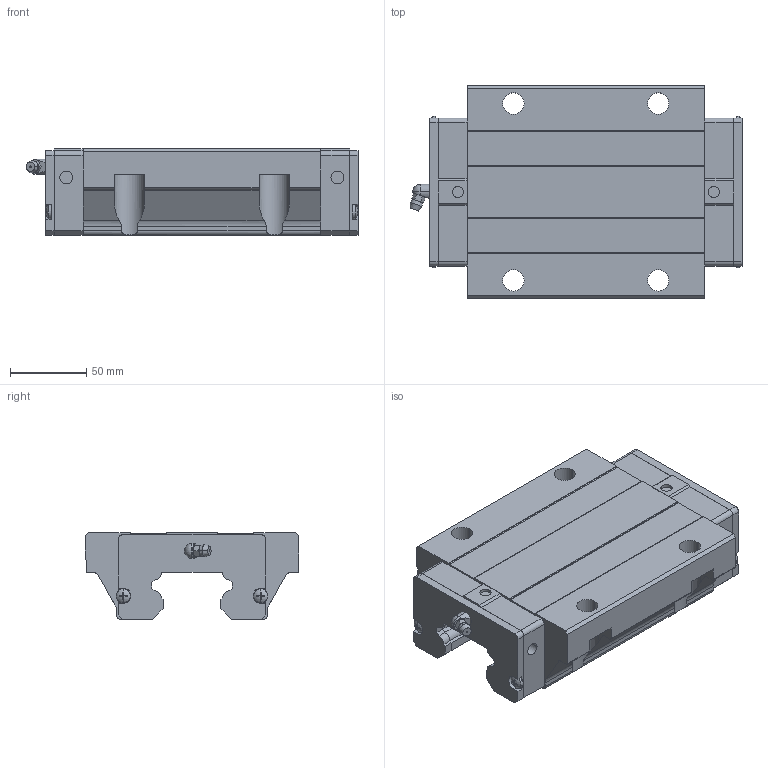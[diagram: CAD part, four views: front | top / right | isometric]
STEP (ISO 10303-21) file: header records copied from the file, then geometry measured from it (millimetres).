
FILE_DESCRIPTION(('starvars output'),'2;1');
FILE_NAME('cv20190626223119000074789.stp','22:31:19 2019/06/26',( 'Thomas Industrial Network Germany GmbH'),( 'Thomas Industrial Network Germany GmbH'),'unknown preprocess','ACIS' ,'unknown authorization');
FILE_SCHEMA(('CONFIG_CONTROL_DESIGN {UNKNOWN IMPLEMENTATION LEVEL}'));
Length unit declared in the file: millimetre
Products named in the file (10): PRODUCT_ID_1; PRODUCT_ID_2; PRODUCT_ID_3; PRODUCT_ID_4; PRODUCT_ID_5; PRODUCT_ID_6; PRODUCT_ID_7; PRODUCT_ID_8; PRODUCT_ID_9; PRODUCT_ID_10
Bounding box: 217.7 x 140 x 57 mm (x, y, z)
Volume: 1034476.6 mm3; surface area: 138040.1 mm2
Topology: 10 solids, 10 shells, 417 faces, 1112 edges, 721 vertices
Faces by surface type: plane 270, cylinder 89, cone 46, sphere 12
Entity records: 12639 total; most frequent: CARTESIAN_POINT 2225, ORIENTED_EDGE 2216, DIRECTION 1724, EDGE_CURVE 1108, VERTEX_POINT 721, VECTOR 692, LINE 692, AXIS2_PLACEMENT_3D 516
